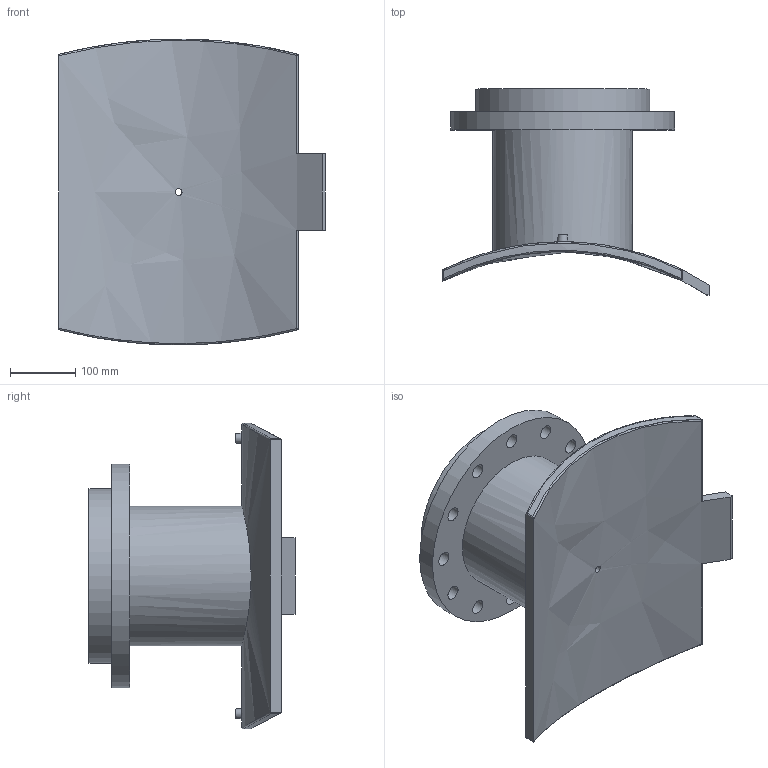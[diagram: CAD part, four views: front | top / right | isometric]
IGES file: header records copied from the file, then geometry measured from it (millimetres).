
Global section: file name: 495903800200T; native system: Autodesk Inventor 2019; preprocessor: unknown; author: KIM; date: 20240403.210248; units: millimetre
Bounding box: 410 x 316.61 x 469.94 mm (x, y, z)
Volume: 8548834.5 mm3; surface area: 830887.4 mm2
Topology: 1 solids, 1 shells, 62 faces, 163 edges, 126 vertices
Faces by surface type: bspline 62
